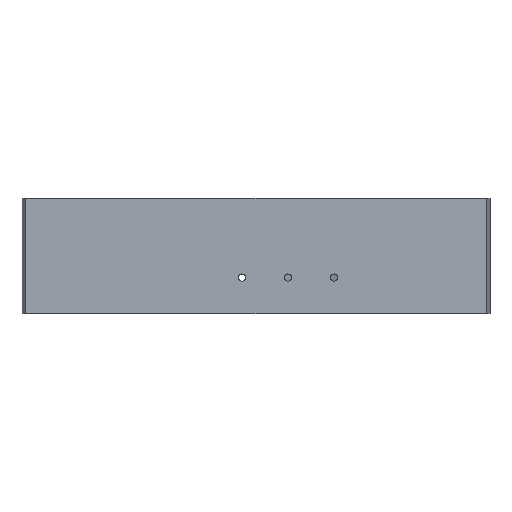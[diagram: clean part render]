
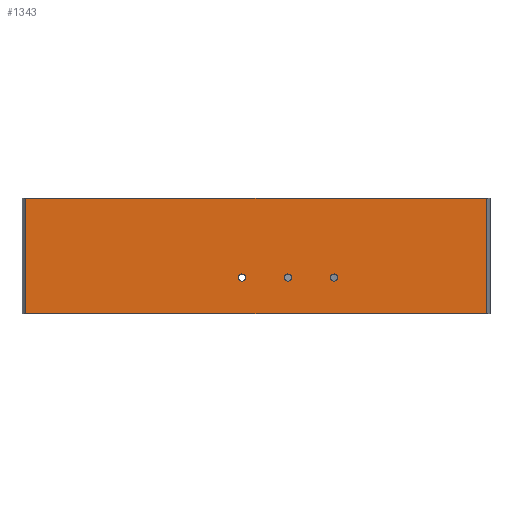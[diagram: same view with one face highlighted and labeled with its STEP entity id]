
A CAD part, front view. The second image highlights one B-rep face of the part: STEP entity #1343.
In plain terms, the highlighted planar face has unit normal (0, -1, 0).
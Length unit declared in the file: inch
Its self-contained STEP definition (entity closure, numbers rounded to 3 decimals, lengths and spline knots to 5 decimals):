
#38=FACE_BOUND('',#240,.T.);
#39=FACE_BOUND('',#241,.T.);
#40=FACE_BOUND('',#242,.T.);
#45=CIRCLE('',#1379,0.0625);
#47=CIRCLE('',#1382,0.0625);
#49=CIRCLE('',#1385,0.0625);
#152=FACE_OUTER_BOUND('',#239,.T.);
#239=EDGE_LOOP('',(#1196,#1197,#1198,#1199));
#240=EDGE_LOOP('',(#1200));
#241=EDGE_LOOP('',(#1201));
#242=EDGE_LOOP('',(#1202));
#332=LINE('',#4187,#419);
#333=LINE('',#4190,#420);
#334=LINE('',#4192,#421);
#335=LINE('',#4193,#422);
#419=VECTOR('',#1653,0.3937);
#420=VECTOR('',#1656,0.3937);
#421=VECTOR('',#1657,0.3937);
#422=VECTOR('',#1658,0.3937);
#552=VERTEX_POINT('',#1955);
#554=VERTEX_POINT('',#1961);
#556=VERTEX_POINT('',#1967);
#634=VERTEX_POINT('',#4093);
#636=VERTEX_POINT('',#4141);
#637=VERTEX_POINT('',#4189);
#638=VERTEX_POINT('',#4191);
#697=EDGE_CURVE('',#552,#552,#45,.T.);
#700=EDGE_CURVE('',#554,#554,#47,.T.);
#703=EDGE_CURVE('',#556,#556,#49,.T.);
#831=EDGE_CURVE('',#634,#636,#332,.T.);
#832=EDGE_CURVE('',#634,#637,#333,.T.);
#833=EDGE_CURVE('',#638,#636,#334,.T.);
#834=EDGE_CURVE('',#637,#638,#335,.T.);
#1196=ORIENTED_EDGE('',*,*,#832,.F.);
#1197=ORIENTED_EDGE('',*,*,#831,.T.);
#1198=ORIENTED_EDGE('',*,*,#833,.F.);
#1199=ORIENTED_EDGE('',*,*,#834,.F.);
#1200=ORIENTED_EDGE('',*,*,#697,.T.);
#1201=ORIENTED_EDGE('',*,*,#700,.T.);
#1202=ORIENTED_EDGE('',*,*,#703,.T.);
#1274=PLANE('',#1429);
#1343=ADVANCED_FACE('',(#152,#38,#39,#40),#1274,.T.);
#1379=AXIS2_PLACEMENT_3D('',#1957,#1504,#1505);
#1382=AXIS2_PLACEMENT_3D('',#1963,#1511,#1512);
#1385=AXIS2_PLACEMENT_3D('',#1969,#1518,#1519);
#1429=AXIS2_PLACEMENT_3D('',#4188,#1654,#1655);
#1504=DIRECTION('center_axis',(0.,1.,0.));
#1505=DIRECTION('ref_axis',(1.,0.,0.));
#1511=DIRECTION('center_axis',(0.,1.,0.));
#1512=DIRECTION('ref_axis',(1.,0.,0.));
#1518=DIRECTION('center_axis',(0.,1.,0.));
#1519=DIRECTION('ref_axis',(1.,0.,0.));
#1653=DIRECTION('',(0.,0.,1.));
#1654=DIRECTION('center_axis',(0.,-1.,0.));
#1655=DIRECTION('ref_axis',(1.,0.,0.));
#1656=DIRECTION('',(-1.,0.,0.));
#1657=DIRECTION('',(1.,0.,0.));
#1658=DIRECTION('',(0.,0.,1.));
#1955=CARTESIAN_POINT('',(0.49261,-4.,0.62545));
#1957=CARTESIAN_POINT('Origin',(0.55511,-4.,0.62545));
#1961=CARTESIAN_POINT('',(1.29261,-4.,0.62545));
#1963=CARTESIAN_POINT('Origin',(1.35511,-4.,0.62545));
#1967=CARTESIAN_POINT('',(-0.30739,-4.,0.62545));
#1969=CARTESIAN_POINT('Origin',(-0.24489,-4.,0.62545));
#4093=CARTESIAN_POINT('',(4.,-4.,0.));
#4141=CARTESIAN_POINT('',(4.,-4.,2.));
#4187=CARTESIAN_POINT('',(4.,-4.,0.));
#4188=CARTESIAN_POINT('Origin',(-4.,-4.,0.));
#4189=CARTESIAN_POINT('',(-4.,-4.,0.));
#4190=CARTESIAN_POINT('',(4.,-4.,0.));
#4191=CARTESIAN_POINT('',(-4.,-4.,2.));
#4192=CARTESIAN_POINT('',(4.,-4.,2.));
#4193=CARTESIAN_POINT('',(-4.,-4.,0.));
